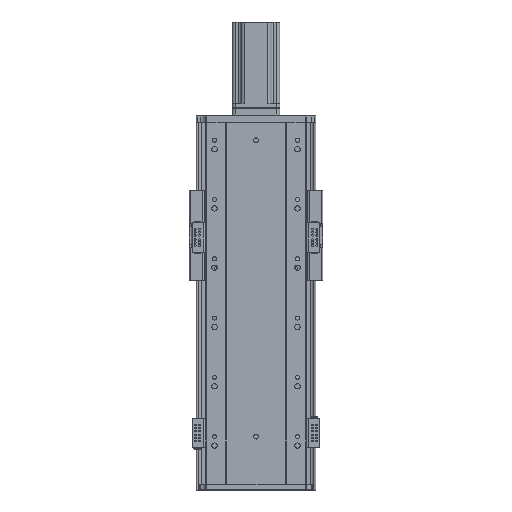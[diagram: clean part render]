
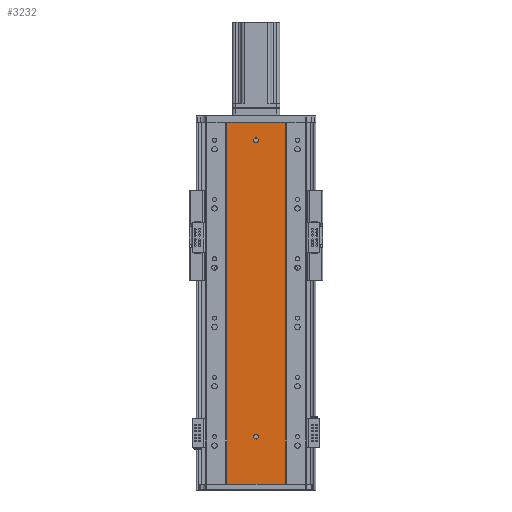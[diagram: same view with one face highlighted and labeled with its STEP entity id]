
A CAD part, front view. The second image highlights one B-rep face of the part: STEP entity #3232.
In plain terms, the highlighted planar face has unit normal (0, -1, 0).
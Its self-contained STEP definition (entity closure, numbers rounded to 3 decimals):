
#118 = CARTESIAN_POINT ( 'NONE',  ( 86.97, 79.476, 610. ) ) ;
#149 = CARTESIAN_POINT ( 'NONE',  ( 185.97, 79.476, 0. ) ) ;
#184 = CARTESIAN_POINT ( 'NONE',  ( 185.97, 79.476, 610. ) ) ;
#504 = B_SPLINE_CURVE_WITH_KNOTS ( 'NONE', 3,
 ( #21748, #21742, #21749, #21741 ),
 .UNSPECIFIED., .F., .F.,
 ( 4, 4 ),
 ( 0., 1. ),
 .UNSPECIFIED. ) ;
#537 = B_SPLINE_CURVE_WITH_KNOTS ( 'NONE', 3,
 ( #22046, #21993, #22016, #22078 ),
 .UNSPECIFIED., .F., .F.,
 ( 4, 4 ),
 ( 0., 1. ),
 .UNSPECIFIED. ) ;
#644 = VERTEX_POINT ( 'NONE', #118 ) ;
#671 = VERTEX_POINT ( 'NONE', #184 ) ;
#675 = VERTEX_POINT ( 'NONE', #149 ) ;
#967 = VERTEX_POINT ( 'NONE', #27655 ) ;
#2077 = EDGE_CURVE ( 'NONE', #17938, #17957, #30192, .T. ) ;
#2105 = EDGE_CURVE ( 'NONE', #17945, #18002, #30180, .T. ) ;
#3232 = ADVANCED_FACE ( 'NONE', ( #10593, #10589, #10596 ), #7846, .F. ) ;
#7846 = PLANE ( 'NONE',  #34497 ) ;
#7871 = DIRECTION ( 'NONE',  ( 0., 1., 0. ) ) ;
#7872 = DIRECTION ( 'NONE',  ( 0., 0., 1. ) ) ;
#7885 = CARTESIAN_POINT ( 'NONE',  ( 0., 79.476, 610. ) ) ;
#8775 = EDGE_LOOP ( 'NONE', ( #20234, #20254 ) ) ;
#8780 = EDGE_LOOP ( 'NONE', ( #20249, #20245 ) ) ;
#8852 = EDGE_LOOP ( 'NONE', ( #20221, #20314, #20243, #20282 ) ) ;
#10589 = FACE_BOUND ( 'NONE', #8775, .T. ) ;
#10593 = FACE_BOUND ( 'NONE', #8780, .T. ) ;
#10596 = FACE_OUTER_BOUND ( 'NONE', #8852, .T. ) ;
#15926 = CARTESIAN_POINT ( 'NONE',  ( 136.47, 79.476, 76. ) ) ;
#15956 = CARTESIAN_POINT ( 'NONE',  ( 136.47, 79.476, 84. ) ) ;
#15957 = CARTESIAN_POINT ( 'NONE',  ( 136.47, 79.476, 584. ) ) ;
#16052 = CARTESIAN_POINT ( 'NONE',  ( 136.47, 79.476, 576. ) ) ;
#17938 = VERTEX_POINT ( 'NONE', #15956 ) ;
#17945 = VERTEX_POINT ( 'NONE', #15957 ) ;
#17957 = VERTEX_POINT ( 'NONE', #15926 ) ;
#18002 = VERTEX_POINT ( 'NONE', #16052 ) ;
#20221 = ORIENTED_EDGE ( 'NONE', *, *, #24074, .T. ) ;
#20234 = ORIENTED_EDGE ( 'NONE', *, *, #24126, .F. ) ;
#20243 = ORIENTED_EDGE ( 'NONE', *, *, #24116, .F. ) ;
#20245 = ORIENTED_EDGE ( 'NONE', *, *, #2105, .F. ) ;
#20249 = ORIENTED_EDGE ( 'NONE', *, *, #24132, .F. ) ;
#20254 = ORIENTED_EDGE ( 'NONE', *, *, #2077, .F. ) ;
#20282 = ORIENTED_EDGE ( 'NONE', *, *, #24135, .T. ) ;
#20314 = ORIENTED_EDGE ( 'NONE', *, *, #24068, .F. ) ;
#21731 = CARTESIAN_POINT ( 'NONE',  ( 0., 79.476, 0. ) ) ;
#21741 = CARTESIAN_POINT ( 'NONE',  ( 185.97, 79.476, 0. ) ) ;
#21742 = CARTESIAN_POINT ( 'NONE',  ( 185.97, 79.476, 406.667 ) ) ;
#21745 = DIRECTION ( 'NONE',  ( 1., 0., 0. ) ) ;
#21748 = CARTESIAN_POINT ( 'NONE',  ( 185.97, 79.476, 610. ) ) ;
#21749 = CARTESIAN_POINT ( 'NONE',  ( 185.97, 79.476, 203.333 ) ) ;
#21864 = CARTESIAN_POINT ( 'NONE',  ( 0., 79.476, 610. ) ) ;
#21873 = DIRECTION ( 'NONE',  ( 1., 0., 0. ) ) ;
#21925 = CARTESIAN_POINT ( 'NONE',  ( 136.47, 79.476, 80. ) ) ;
#21941 = DIRECTION ( 'NONE',  ( 0., 0., -1. ) ) ;
#21954 = DIRECTION ( 'NONE',  ( 0., -1., 0. ) ) ;
#21993 = CARTESIAN_POINT ( 'NONE',  ( 86.97, 79.476, 406.667 ) ) ;
#22016 = CARTESIAN_POINT ( 'NONE',  ( 86.97, 79.476, 203.333 ) ) ;
#22037 = DIRECTION ( 'NONE',  ( 0., -1., 0. ) ) ;
#22046 = CARTESIAN_POINT ( 'NONE',  ( 86.97, 79.476, 610. ) ) ;
#22051 = CARTESIAN_POINT ( 'NONE',  ( 136.47, 79.476, 580. ) ) ;
#22057 = DIRECTION ( 'NONE',  ( 0., 0., -1. ) ) ;
#22078 = CARTESIAN_POINT ( 'NONE',  ( 86.97, 79.476, 0. ) ) ;
#24068 = EDGE_CURVE ( 'NONE', #671, #675, #504, .T. ) ;
#24074 = EDGE_CURVE ( 'NONE', #967, #675, #25204, .T. ) ;
#24116 = EDGE_CURVE ( 'NONE', #644, #671, #25403, .T. ) ;
#24126 = EDGE_CURVE ( 'NONE', #17957, #17938, #25317, .T. ) ;
#24132 = EDGE_CURVE ( 'NONE', #18002, #17945, #25365, .T. ) ;
#24135 = EDGE_CURVE ( 'NONE', #644, #967, #537, .T. ) ;
#25204 = LINE ( 'NONE', #21731, #25215 ) ;
#25215 = VECTOR ( 'NONE', #21745, 1000. ) ;
#25317 = CIRCLE ( 'NONE', #35267, 4. ) ;
#25365 = CIRCLE ( 'NONE', #35242, 4. ) ;
#25403 = LINE ( 'NONE', #21864, #25407 ) ;
#25407 = VECTOR ( 'NONE', #21873, 1000. ) ;
#27655 = CARTESIAN_POINT ( 'NONE',  ( 86.97, 79.476, 0. ) ) ;
#30180 = CIRCLE ( 'NONE', #33078, 4. ) ;
#30192 = CIRCLE ( 'NONE', #33082, 4. ) ;
#33078 = AXIS2_PLACEMENT_3D ( 'NONE', #37466, #37495, #37470 ) ;
#33082 = AXIS2_PLACEMENT_3D ( 'NONE', #37370, #37369, #37399 ) ;
#34497 = AXIS2_PLACEMENT_3D ( 'NONE', #7885, #7871, #7872 ) ;
#35242 = AXIS2_PLACEMENT_3D ( 'NONE', #22051, #22037, #22057 ) ;
#35267 = AXIS2_PLACEMENT_3D ( 'NONE', #21925, #21954, #21941 ) ;
#37369 = DIRECTION ( 'NONE',  ( 0., -1., 0. ) ) ;
#37370 = CARTESIAN_POINT ( 'NONE',  ( 136.47, 79.476, 80. ) ) ;
#37399 = DIRECTION ( 'NONE',  ( 0., 0., -1. ) ) ;
#37466 = CARTESIAN_POINT ( 'NONE',  ( 136.47, 79.476, 580. ) ) ;
#37470 = DIRECTION ( 'NONE',  ( 0., 0., -1. ) ) ;
#37495 = DIRECTION ( 'NONE',  ( 0., -1., 0. ) ) ;
